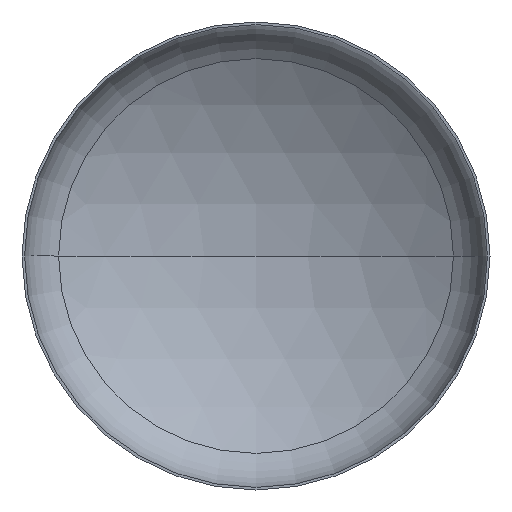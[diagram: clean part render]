
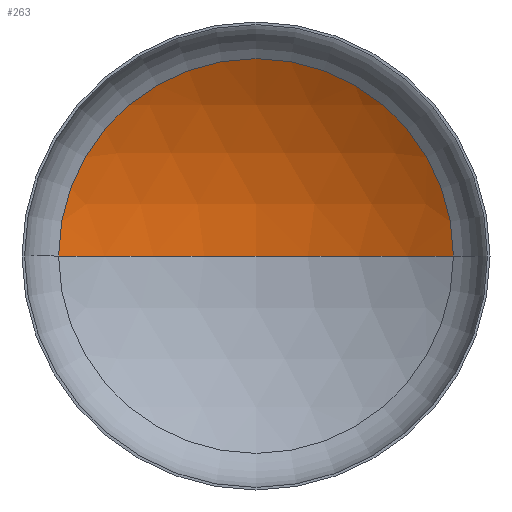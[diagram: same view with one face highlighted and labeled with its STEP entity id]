
A CAD part, front view. The second image highlights one B-rep face of the part: STEP entity #263.
In plain terms, the highlighted spherical face has radius 5200 mm.
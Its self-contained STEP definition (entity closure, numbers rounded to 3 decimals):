
#6 = VERTEX_POINT ( 'NONE', #217 ) ;
#9 = DIRECTION ( 'NONE',  ( 1., 0., 0. ) ) ;
#27 = VERTEX_POINT ( 'NONE', #251 ) ;
#31 = ORIENTED_EDGE ( 'NONE', *, *, #156, .T. ) ;
#40 = DIRECTION ( 'NONE',  ( 0., 0., -1. ) ) ;
#52 = AXIS2_PLACEMENT_3D ( 'NONE', #177, #40, #381 ) ;
#68 = ORIENTED_EDGE ( 'NONE', *, *, #158, .T. ) ;
#73 = CIRCLE ( 'NONE', #118, 2741.143 ) ;
#85 = VERTEX_POINT ( 'NONE', #250 ) ;
#94 = EDGE_LOOP ( 'NONE', ( #115, #68, #31 ) ) ;
#101 = AXIS2_PLACEMENT_3D ( 'NONE', #298, #315, #9 ) ;
#109 = AXIS2_PLACEMENT_3D ( 'NONE', #201, #358, #230 ) ;
#115 = ORIENTED_EDGE ( 'NONE', *, *, #159, .F. ) ;
#118 = AXIS2_PLACEMENT_3D ( 'NONE', #221, #219, #220 ) ;
#156 = EDGE_CURVE ( 'NONE', #27, #6, #73, .T. ) ;
#158 = EDGE_CURVE ( 'NONE', #85, #27, #197, .T. ) ;
#159 = EDGE_CURVE ( 'NONE', #85, #6, #312, .T. ) ;
#177 = CARTESIAN_POINT ( 'NONE',  ( 0., -3459.062, 0. ) ) ;
#197 = CIRCLE ( 'NONE', #109, 5200. ) ;
#201 = CARTESIAN_POINT ( 'NONE',  ( 0., -3459.062, 0. ) ) ;
#217 = CARTESIAN_POINT ( 'NONE',  ( -2741.143, 959.777, 0. ) ) ;
#219 = DIRECTION ( 'NONE',  ( 0., -1., 0. ) ) ;
#220 = DIRECTION ( 'NONE',  ( 1., 0., 0. ) ) ;
#221 = CARTESIAN_POINT ( 'NONE',  ( 0., 959.777, 0. ) ) ;
#230 = DIRECTION ( 'NONE',  ( -1., 0., 0. ) ) ;
#235 = FACE_OUTER_BOUND ( 'NONE', #94, .T. ) ;
#250 = CARTESIAN_POINT ( 'NONE',  ( 0., 1740.938, 0. ) ) ;
#251 = CARTESIAN_POINT ( 'NONE',  ( 2741.143, 959.777, 0. ) ) ;
#263 = ADVANCED_FACE ( 'NONE', ( #235 ), #405, .F. ) ;
#298 = CARTESIAN_POINT ( 'NONE',  ( 0., -3459.062, 0. ) ) ;
#312 = CIRCLE ( 'NONE', #101, 5200. ) ;
#315 = DIRECTION ( 'NONE',  ( 0., 0., 1. ) ) ;
#358 = DIRECTION ( 'NONE',  ( 0., 0., -1. ) ) ;
#381 = DIRECTION ( 'NONE',  ( -1., 0., 0. ) ) ;
#405 = SPHERICAL_SURFACE ( 'NONE', #52, 5200. ) ;
